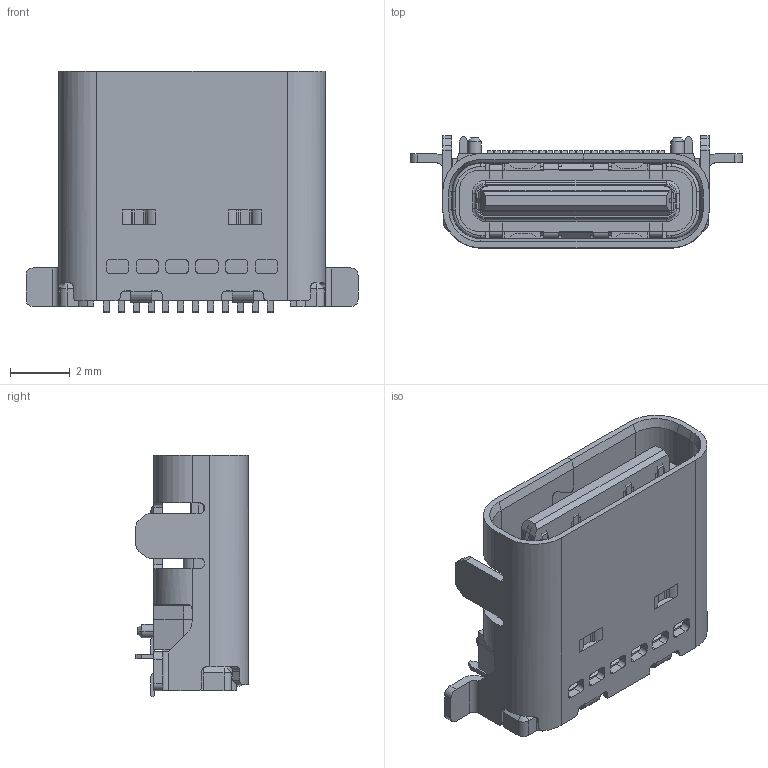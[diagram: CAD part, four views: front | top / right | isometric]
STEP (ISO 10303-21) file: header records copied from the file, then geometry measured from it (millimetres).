
FILE_DESCRIPTION(('CoCreate Modeling STEP Export'),'2;1');
FILE_NAME('USB_TypeCf24p板上双排SMT(1).STEP','2024-03-12T11:11:53',(''),(''),'CoCreate Modeling STEP processor for AP214 (Solid Model)','CoCreate Modeling 16.00 13-May-2008 (C) Parametric Technology GmbH','');
FILE_SCHEMA(('AUTOMOTIVE_DESIGN { 1 0 10303 214 1 1 1 1 }'));
Length unit declared in the file: millimetre
Products named in the file (24): p1; p50; p38; p49; p37; p48; p36; p47; p35; p46; p34; p45; p33; p44; p32; p43; p31; p42; p30; p41; p39; p40; USB_TypeCf24p°åÉÏË«ÅÅSMT; USB_TypeCf24p板上双排SMT.STEP
Assembly tree (23 placements, depth 3):
  USB_TypeCf24p板上双排SMT.STEP
    USB_TypeCf24p°åÉÏË«ÅÅSMT
      p40
      p39
      p41
      p30
      p42
      p31
      p43
      p32
      p44
      p33
      p45
      p34
      p46
      p35
      p47
      p36
      p48
      p37
      p49
      p38
      p50
      p1
Bounding box: 11.14 x 3.76 x 8.1 mm (x, y, z)
Volume: 49 mm3; surface area: 779.5 mm2
Topology: 25 solids, 26 shells, 1788 faces, 5196 edges, 3382 vertices
Faces by surface type: plane 1332, cylinder 388, cone 28, torus 24, bspline 16
Entity records: 58628 total; most frequent: CARTESIAN_POINT 10798, ORIENTED_EDGE 10432, DIRECTION 8991, EDGE_CURVE 5211, VECTOR 4085, LINE 4085, VERTEX_POINT 3399, AXIS2_PLACEMENT_3D 2453
